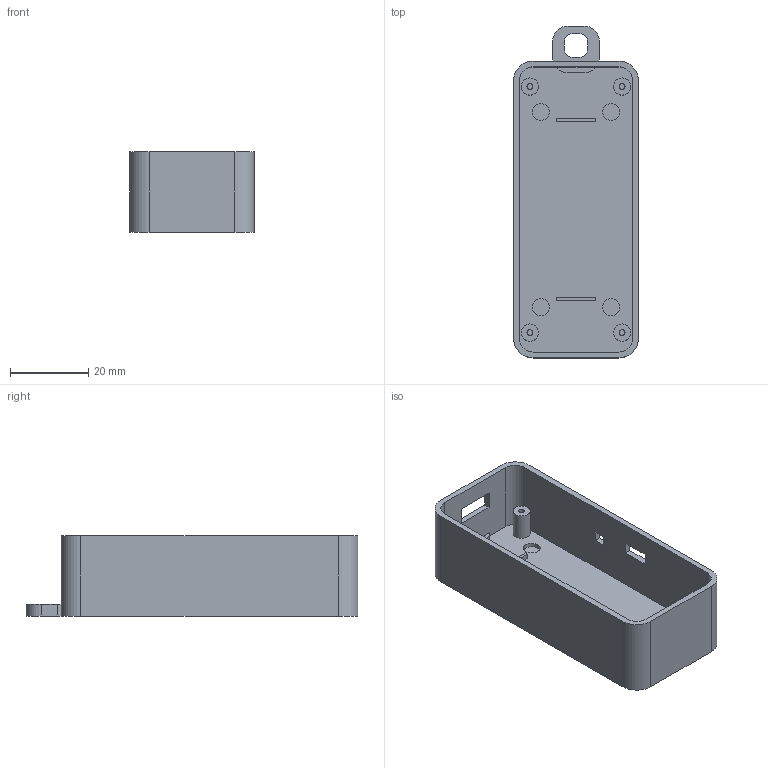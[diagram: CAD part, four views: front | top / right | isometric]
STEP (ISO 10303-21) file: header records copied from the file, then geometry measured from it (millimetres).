
FILE_DESCRIPTION(('Open CASCADE Model'),'2;1');
FILE_NAME('Open CASCADE Shape Model','2026-09-08T01:04:27',('Author'),( 'Open CASCADE'),'Open CASCADE STEP processor 7.9','Open CASCADE 7.9' ,'Unknown');
FILE_SCHEMA(('AUTOMOTIVE_DESIGN { 1 0 10303 214 1 1 1 1 }'));
Length unit declared in the file: millimetre
Products named in the file (2): rear-shell; SOLID
Assembly tree (1 placements, depth 2):
  rear-shell
    SOLID
Bounding box: 32 x 85 x 20.5 mm (x, y, z)
Volume: 10892.2 mm3; surface area: 13544.8 mm2
Topology: 1 solids, 1 shells, 85 faces, 204 edges, 136 vertices
Faces by surface type: plane 55, cylinder 30
Full cylindrical faces by diameter (mm): 1.5 x4, 4.3 x4, 4.4 x4
Entity records: 5182 total; most frequent: CARTESIAN_POINT 1077, DIRECTION 734, ORIENTED_EDGE 408, PCURVE 408, DEFINITIONAL_REPRESENTATION 408, LINE 406, VECTOR 406, EDGE_CURVE 204
